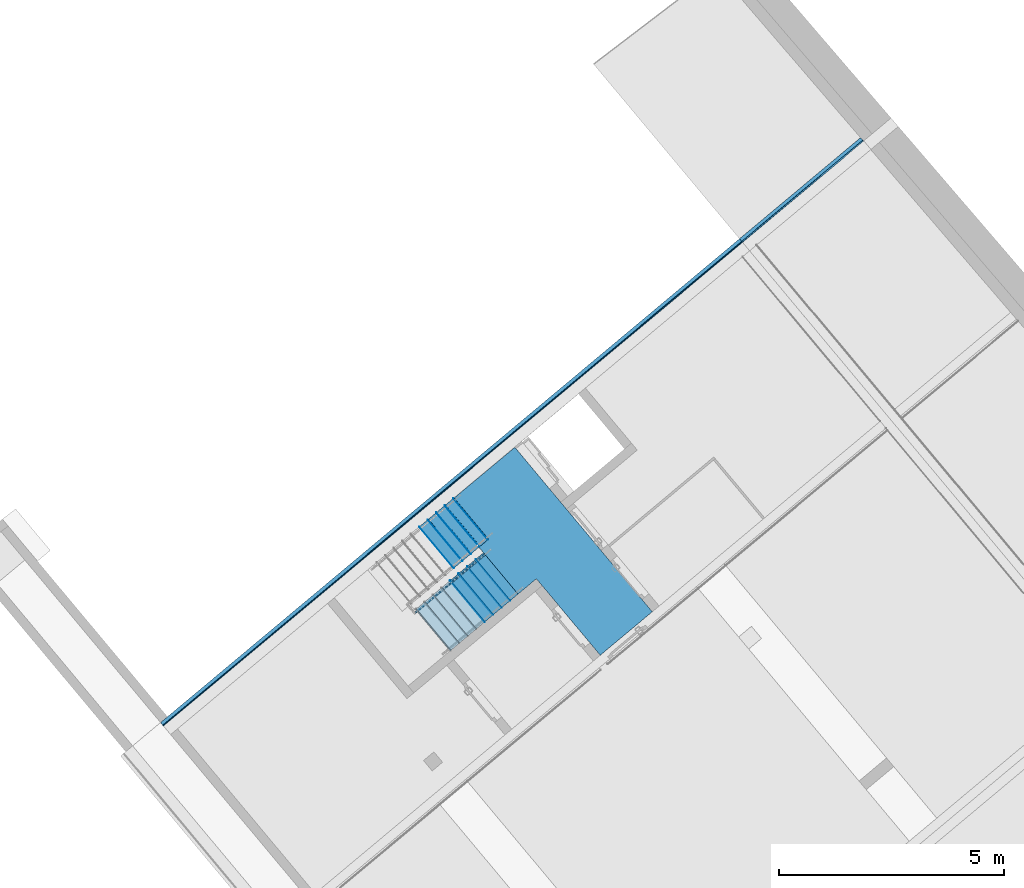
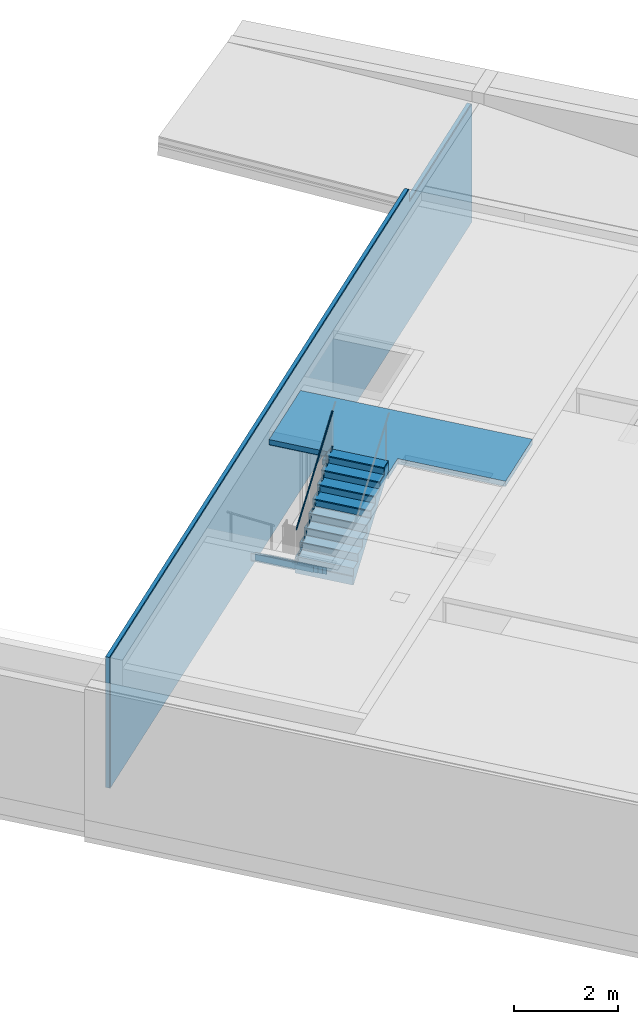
# One storey, part 10 of 17: 24 building element parts, 4 elements without a shape of their own.
"""IFC4 building model written with IfcOpenShell, lengths in metres."""

from ifc_helpers import new_model, entity, si_unit, converted_unit, derived_unit, direction, frame, origin_with_axes, place, context, subcontext, project, spatial, polygons, material, type_object, element, aggregate, save


model = new_model("IFC4")

# Units and contexts
model_context = context("Model", 3, precision=1e-05, world=origin_with_axes(), true_north=direction((0.0, 1.0)))
body_context = subcontext(model_context, "Body", "Model", "MODEL_VIEW")
ifc_project = project(units=[si_unit("LENGTHUNIT", "METRE"), si_unit("AREAUNIT", "SQUARE_METRE"), si_unit("VOLUMEUNIT", "CUBIC_METRE"), converted_unit("PLANEANGLEUNIT", "DEGREE", entity("IfcPlaneAngleMeasure", 0.0174532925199), si_unit("PLANEANGLEUNIT", "RADIAN"), dimensions=[0, 0, 0, 0, 0, 0, 0]), converted_unit("TIMEUNIT", "Year", entity("IfcTimeMeasure", 31556926.0), si_unit("TIMEUNIT", "SECOND"), dimensions=[0, 0, 1, 0, 0, 0, 0]), si_unit("MASSUNIT", "GRAM", prefix="KILO"), si_unit("THERMODYNAMICTEMPERATUREUNIT", "DEGREE_CELSIUS"), si_unit("LUMINOUSINTENSITYUNIT", "LUMEN"), si_unit("ENERGYUNIT", "JOULE", prefix="MEGA"), derived_unit("THERMALCONDUCTANCEUNIT", [(si_unit("POWERUNIT", "WATT"), 1), (si_unit("LENGTHUNIT", "METRE"), -1), (si_unit("THERMODYNAMICTEMPERATUREUNIT", "KELVIN"), -1)]), derived_unit("SPECIFICHEATCAPACITYUNIT", [(si_unit("ENERGYUNIT", "JOULE"), 1), (si_unit("MASSUNIT", "GRAM", prefix="KILO"), -1), (si_unit("THERMODYNAMICTEMPERATUREUNIT", "KELVIN"), -1)]), derived_unit("MASSDENSITYUNIT", [(si_unit("MASSUNIT", "GRAM", prefix="KILO"), 1), (si_unit("VOLUMEUNIT", "CUBIC_METRE"), -1)])], contexts=[model_context])

# Site, building, storey
site_placement = place(None, frame((-0.00153261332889, -0.00661245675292, 0.0), z_axis=(0.0, 0.0, 1.0), x_axis=(1.0, 0.0, 0.0)))
site = spatial("IfcSite", under=ifc_project, at=site_placement, Name="Site", CompositionType="ELEMENT")
building_placement = place(site_placement, origin_with_axes())
building = spatial("IfcBuilding", under=site, at=building_placement, Name="Building", CompositionType="ELEMENT")
storey_placement = place(building_placement, frame((0.0, 0.0, -3.3), z_axis=(0.0, 0.0, 1.0), x_axis=(1.0, 0.0, 0.0)))
storey = spatial("IfcBuildingStorey", under=building, at=storey_placement, Name="UG1", CompositionType="ELEMENT", Elevation=-3.3)

# Railing, building element parts
railing_type = type_object("IfcRailingType", Name="Geländerart", PredefinedType="NOTDEFINED")
railing_placement = place(storey_placement, frame((-0.202679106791, 23.9992163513, 0.0), z_axis=(0.0, 0.0, 1.0), x_axis=(1.0, 0.0, 0.0)))
railing = element("IfcRailing", 1, at=railing_placement, inside=storey, type_object=railing_type, Name="Geländer - 001", PredefinedType="NOTDEFINED")
ifc_material_1 = material(Name="BEKLEIDUNG")
building_element_part_1_placement = place(railing_placement, origin_with_axes())
building_element_part_1 = element("IfcBuildingElementPart", 2, at=building_element_part_1_placement, material=ifc_material_1, Name="BEKLEIDUNG", PredefinedType="NOTDEFINED", context=body_context, shape_type="Tessellation", body=[
    polygons([(-1.8322830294, -1.79508964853, 2.61672621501), (-1.83344295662, -1.79516516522, 2.61923212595), (-0.280788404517, -0.488809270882, 4.06989400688), (-1.83123457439, -1.79559152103, 2.61422030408), (-1.83032944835, -1.79665553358, 2.61179053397), (-1.82959515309, -1.7982493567, 2.60951073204), (-1.8290539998, -1.80032456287, 2.60745016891), (-1.82872243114, -1.80281809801, 2.60567145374), (-1.82861052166, -1.80565419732, 2.6042286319), (-1.82872167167, -1.80874668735, 2.6031655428), (-1.82905250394, -1.81200160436, 2.60251448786), (-1.8295929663, -1.81532004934, 2.60229524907), (-1.83032663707, -1.81860119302, 2.60251448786), (-1.83123122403, -1.82174533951, 2.6031655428), (-1.83227924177, -1.82465695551, 2.6042286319), (-1.8334388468, -1.82724757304, 2.60567145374), (-1.8346748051, -1.8294384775, 2.60745016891), (-1.83594956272, -1.83116309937, 2.60951073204), (-1.83722438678, -1.83236903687, 2.61179053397), (-1.8384605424, -1.83301964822, 2.61422030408), (-1.83962046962, -1.83309516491, 2.61672621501), (-1.84066892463, -1.83259329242, 2.61923212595), (-1.84157405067, -1.83152927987, 2.62166189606), (-1.84230834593, -1.82993545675, 2.62394169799), (-1.84284949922, -1.82786025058, 2.62600226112), (-1.84318106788, -1.82536671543, 2.62778097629), (-1.84329297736, -1.82253061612, 2.62922379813), (-1.84318182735, -1.81943812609, 2.63028688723), (-1.84285099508, -1.81618320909, 2.63093794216), (-1.84231053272, -1.81286476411, 2.63115718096), (-1.84157686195, -1.80958362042, 2.63093794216), (-1.84067227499, -1.80643947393, 2.63028688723), (-1.83962425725, -1.80352785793, 2.62922379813), (-1.83846465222, -1.8009372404, 2.62778097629), (-1.83722869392, -1.79874633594, 2.62600226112), (-1.8359539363, -1.79702171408, 2.62394169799), (-1.83467911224, -1.79581577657, 2.62166189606), (-0.281476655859, -0.49026625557, 4.071953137), (-0.279777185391, -0.48766732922, 4.06777035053), (-0.278473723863, -0.486875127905, 4.06564669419), (-0.276917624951, -0.486456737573, 4.06358756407), (-0.275156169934, -0.486424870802, 4.0616555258), (-0.273242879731, -0.486780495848, 4.05990928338), (-0.271235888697, -0.487512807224, 4.05840189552), (-0.269196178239, -0.488599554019, 4.05717916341), (-0.267185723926, -0.490007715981, 4.05627823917), (-0.265265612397, -0.491694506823, 4.05572649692), (-0.263494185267, -0.493608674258, 4.05554070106), (-0.261925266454, -0.495692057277, 4.05572649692), (-0.260606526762, -0.497881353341, 4.05627823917), (-0.25957803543, -0.500110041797, 4.05717916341), (-0.258871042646, -0.502310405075, 4.05840189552), (-0.258507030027, -0.504415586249, 4.05990928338), (-0.258497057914, -0.506361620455, 4.0616555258), (-0.258841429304, -0.508089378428, 4.06358756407), (-0.259529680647, -0.509546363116, 4.06564669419), (-0.260540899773, -0.510688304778, 4.06777035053), (-0.261844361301, -0.511480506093, 4.06989400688), (-0.263400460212, -0.511898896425, 4.071953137), (-0.265161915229, -0.511930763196, 4.07388517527), (-0.267075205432, -0.51157513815, 4.07563141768), (-0.269082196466, -0.510842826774, 4.07713880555), (-0.271121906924, -0.509756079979, 4.07836153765), (-0.273132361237, -0.508347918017, 4.07926246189), (-0.275052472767, -0.506661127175, 4.07981420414), (-0.276823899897, -0.50474695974, 4.08), (-0.278392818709, -0.502663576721, 4.07981420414), (-0.279711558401, -0.500474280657, 4.07926246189), (-0.280740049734, -0.498245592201, 4.07836153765), (-0.281447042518, -0.496045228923, 4.07713880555), (-0.281811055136, -0.493940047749, 4.07563141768), (-0.281821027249, -0.491994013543, 4.07388517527)], [[[1, 2, 3]], [[1, 4, 5, 6, 7, 8, 9, 10, 11, 12, 13, 14, 15, 16, 17, 18, 19, 20, 21, 22, 23, 24, 25, 26, 27, 28, 29, 30, 31, 32, 33, 34, 35, 36, 37, 2]], [[2, 38, 3]], [[1, 3, 39]], [[4, 1, 39]], [[5, 4, 40]], [[6, 5, 41]], [[7, 6, 42]], [[8, 7, 43]], [[9, 8, 44]], [[10, 9, 45]], [[11, 10, 46]], [[12, 11, 47]], [[13, 12, 48]], [[14, 13, 49]], [[15, 14, 50]], [[16, 15, 51]], [[17, 16, 52]], [[18, 17, 53]], [[19, 18, 54]], [[20, 19, 55]], [[21, 20, 56]], [[22, 21, 57]], [[23, 22, 58]], [[24, 23, 59]], [[25, 24, 60]], [[26, 25, 61]], [[27, 26, 62]], [[28, 27, 63]], [[29, 28, 64]], [[30, 29, 65]], [[31, 30, 66]], [[32, 31, 67]], [[33, 32, 68]], [[34, 33, 69]], [[35, 34, 70]], [[36, 35, 71]], [[37, 36, 72]], [[2, 37, 38]], [[39, 3, 38, 72, 71, 70, 69, 68, 67, 66, 65, 64, 63, 62, 61, 60, 59, 58, 57, 56, 55, 54, 53, 52, 51, 50, 49, 48, 47, 46, 45, 44, 43, 42, 41, 40]], [[4, 39, 40]], [[5, 40, 41]], [[6, 41, 42]], [[7, 42, 43]], [[8, 43, 44]], [[9, 44, 45]], [[10, 45, 46]], [[11, 46, 47]], [[12, 47, 48]], [[13, 48, 49]], [[14, 49, 50]], [[15, 50, 51]], [[16, 51, 52]], [[17, 52, 53]], [[18, 53, 54]], [[19, 54, 55]], [[20, 55, 56]], [[21, 56, 57]], [[22, 57, 58]], [[23, 58, 59]], [[24, 59, 60]], [[25, 60, 61]], [[26, 61, 62]], [[27, 62, 63]], [[28, 63, 64]], [[29, 64, 65]], [[30, 65, 66]], [[31, 66, 67]], [[32, 67, 68]], [[33, 68, 69]], [[34, 69, 70]], [[35, 70, 71]], [[36, 71, 72]], [[37, 72, 38]]], closed=True),
])
building_element_part_2_placement = place(railing_placement, origin_with_axes())
building_element_part_2 = element("IfcBuildingElementPart", 3, at=building_element_part_2_placement, material=ifc_material_1, Name="BEKLEIDUNG", PredefinedType="NOTDEFINED", context=body_context, shape_type="Tessellation", body=[
    polygons([(-1.85066678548, -1.82767736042, 1.81318298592), (-1.84006881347, -1.82972343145, 1.78913137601), (-0.263254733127, -0.509698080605, 3.23980862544), (-1.84455225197, -1.79600609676, 1.81318298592), (-1.83395427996, -1.79805216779, 1.78913137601), (-0.279284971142, -0.490513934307, 3.23980862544), (-0.274362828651, -0.518979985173, 3.26019137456), (-0.290393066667, -0.499795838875, 3.26019137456)], [[[1, 2, 3]], [[1, 4, 5, 2]], [[2, 6, 3]], [[1, 3, 7]], [[4, 1, 7]], [[5, 4, 8]], [[2, 5, 6]], [[7, 3, 6, 8]], [[4, 7, 8]], [[5, 8, 6]]], closed=True),
])
aggregate(railing, [building_element_part_1, building_element_part_2])

# Stair, building element parts
stair_type = type_object("IfcStairType", Name="Treppentyp", PredefinedType="NOTDEFINED")
stair_placement = place(storey_placement, frame((-0.972083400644, 24.9200947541, 0.0), z_axis=(0.0, 0.0, 1.0), x_axis=(1.0, 0.0, 0.0)))
stair = element("IfcStair", 4, at=stair_placement, inside=storey, type_object=stair_type, Name="Treppe - 001", PredefinedType="NOTDEFINED")
ifc_material_2 = material(Name="Stahlbeton Decke")
building_element_part_3_placement = place(stair_placement, origin_with_axes())
building_element_part_3 = element("IfcBuildingElementPart", 5, at=building_element_part_3_placement, material=ifc_material_2, Name="Stahlbeton Decke", PredefinedType="NOTDEFINED", context=body_context, shape_type="Tessellation", body=[
    polygons([(1.10378229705, -2.4135394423, 2.81014065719), (1.16687682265, -2.36081777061, 2.86902954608), (1.22997134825, -2.30809609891, 2.92791843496), (1.22997134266, -2.30809609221, 3.155), (1.05994864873, -2.45016674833, 3.155), (1.05994864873, -2.45016674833, 2.97833333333), (0.870665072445, -2.60833176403, 2.97833333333), (0.870665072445, -2.60833176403, 2.80166666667), (0.681381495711, -2.7664967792, 2.80166666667), (0.681381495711, -2.7664967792, 2.625), (0.492097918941, -2.92466179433, 2.625), (0.492097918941, -2.92466179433, 2.44833333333), (0.302814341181, -3.08282680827, 2.44833333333), (0.302814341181, -3.08282680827, 2.27166666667), (0.113530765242, -3.24099182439, 2.27166666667), (0.113530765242, -3.24099182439, 2.095), (-0.0757528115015, -3.39915683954, 2.095), (-0.0757528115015, -3.39915683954, 1.91833333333), (-0.265036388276, -3.55732185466, 1.91833333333), (-0.265036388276, -3.55732185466, 1.74166666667), (-0.284297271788, -3.57341621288, 1.74166666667), (-0.284297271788, -3.57341621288, 1.54166666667), (-0.255281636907, -3.54917080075, 1.54166666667), (-0.221202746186, -3.52069454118, 1.57347399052), (-0.158108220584, -3.46797286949, 1.63236287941), (-0.0950136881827, -3.41525120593, 1.6912517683), (-0.0319191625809, -3.36252953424, 1.75014065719), (0.0311753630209, -3.30980786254, 1.80902954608), (0.0942698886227, -3.25708619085, 1.86791843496), (0.157364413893, -3.20436451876, 1.92680732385), (0.220458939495, -3.15164284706, 1.98569621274), (0.283553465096, -3.09892117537, 2.04458510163), (0.346647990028, -3.04619950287, 2.10347399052), (0.40974251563, -2.99347783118, 2.16236287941), (0.472837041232, -2.94075615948, 2.2212517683), (0.535931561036, -2.88803448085, 2.28014065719), (0.599026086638, -2.83531280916, 2.33902954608), (0.66212061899, -2.78259114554, 2.39791843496), (0.725215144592, -2.72986947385, 2.45680732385), (0.788309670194, -2.67714780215, 2.51569621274), (0.851404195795, -2.62442613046, 2.57458510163), (0.914498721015, -2.57170445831, 2.63347399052), (0.977593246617, -2.51898278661, 2.69236287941), (1.04068777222, -2.46626111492, 2.7512517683), (0.397425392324, -1.43997874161, 2.86902954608), (0.334330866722, -1.49270041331, 2.81014065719), (0.460519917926, -1.38725706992, 2.92791843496), (0.460519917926, -1.38725706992, 3.155), (0.290497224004, -1.52932772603, 3.155), (0.290497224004, -1.52932772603, 2.97833333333), (0.101213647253, -1.68749274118, 2.97833333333), (0.101213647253, -1.68749274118, 2.80166666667), (-0.0880699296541, -1.84565775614, 2.80166666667), (-0.0880699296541, -1.84565775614, 2.625), (-0.27735350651, -2.00382277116, 2.625), (-0.27735350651, -2.00382277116, 2.44833333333), (-0.46663708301, -2.16198778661, 2.44833333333), (-0.46663708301, -2.16198778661, 2.27166666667), (-0.655920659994, -2.32015280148, 2.27166666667), (-0.655920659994, -2.32015280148, 2.095), (-0.845204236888, -2.47831781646, 2.095), (-0.845204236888, -2.47831781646, 1.91833333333), (-1.03448781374, -2.63648283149, 1.91833333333), (-1.03448781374, -2.63648283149, 1.74166666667), (-1.05374869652, -2.65257719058, 1.74166666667), (-1.05374870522, -2.65257718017, 1.54166666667), (-1.02473307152, -2.62833176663, 1.54166666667), (-0.990654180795, -2.59985550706, 1.57347399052), (-0.927559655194, -2.54713383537, 1.63236287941), (-0.864465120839, -2.49441217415, 1.6912517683), (-0.801370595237, -2.44169050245, 1.75014065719), (-0.738276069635, -2.38896883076, 1.80902954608), (-0.675181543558, -2.33624715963, 1.86791843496), (-0.612087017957, -2.28352548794, 1.92680732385), (-0.548992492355, -2.23080381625, 1.98569621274), (-0.4858979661, -2.17808214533, 2.04458510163), (-0.422803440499, -2.12536047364, 2.10347399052), (-0.359708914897, -2.07263880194, 2.16236287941), (-0.296614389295, -2.01991713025, 2.2212517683), (-0.233519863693, -1.96719545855, 2.28014065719), (-0.170425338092, -1.91447378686, 2.33902954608), (-0.10733081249, -1.86175211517, 2.39791843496), (-0.0442362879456, -1.80903044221, 2.45680732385), (0.0188582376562, -1.75630877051, 2.51569621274), (0.0819527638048, -1.70358709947, 2.57458510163), (0.145047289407, -1.65086542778, 2.63347399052), (0.208141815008, -1.59814375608, 2.69236287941), (0.271236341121, -1.545422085, 2.7512517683)], [[[1, 2, 3, 4, 5, 6, 7, 8, 9, 10, 11, 12, 13, 14, 15, 16, 17, 18, 19, 20, 21, 22, 23, 24, 25, 26, 27, 28, 29, 30, 31, 32, 33, 34, 35, 36, 37, 38, 39, 40, 41, 42, 43, 44]], [[45, 2, 1, 46]], [[47, 3, 2, 45]], [[4, 3, 47, 48]], [[4, 48, 49, 5]], [[49, 50, 6, 5]], [[51, 7, 6, 50]], [[51, 52, 8, 7]], [[53, 9, 8, 52]], [[53, 54, 10, 9]], [[55, 11, 10, 54]], [[55, 56, 12, 11]], [[57, 13, 12, 56]], [[57, 58, 14, 13]], [[59, 15, 14, 58]], [[59, 60, 16, 15]], [[61, 17, 16, 60]], [[61, 62, 18, 17]], [[63, 19, 18, 62]], [[63, 64, 20, 19]], [[64, 65, 21, 20]], [[66, 22, 21, 65]], [[23, 22, 66, 67]], [[68, 24, 23, 67]], [[69, 25, 24, 68]], [[70, 26, 25, 69]], [[71, 27, 26, 70]], [[72, 28, 27, 71]], [[73, 29, 28, 72]], [[74, 30, 29, 73]], [[75, 31, 30, 74]], [[76, 32, 31, 75]], [[77, 33, 32, 76]], [[78, 34, 33, 77]], [[79, 35, 34, 78]], [[80, 36, 35, 79]], [[81, 37, 36, 80]], [[82, 38, 37, 81]], [[83, 39, 38, 82]], [[84, 40, 39, 83]], [[85, 41, 40, 84]], [[86, 42, 41, 85]], [[87, 43, 42, 86]], [[88, 44, 43, 87]], [[46, 1, 44, 88]], [[69, 68, 67, 66, 65, 64, 63, 62, 61, 60, 59, 58, 57, 56, 55, 54, 53, 52, 51, 50, 49, 48, 47, 45, 46, 88, 87, 86, 85, 84, 83, 82, 81, 80, 79, 78, 77, 76, 75, 74, 73, 72, 71, 70]]], closed=True),
])
building_element_part_4_placement = place(stair_placement, origin_with_axes())
building_element_part_4 = element("IfcBuildingElementPart", 6, at=building_element_part_4_placement, material=ifc_material_1, Name="BEKLEIDUNG", PredefinedType="NOTDEFINED", context=body_context, shape_type="Tessellation", body=[
    polygons([(-0.207379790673, -0.173268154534, 0.151666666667), (-0.215053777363, -0.179679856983, 0.151666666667), (0.55435051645, -1.10055825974, 0.151666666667), (0.56202450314, -1.09414655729, 0.151666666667), (-0.207379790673, -0.173268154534, 0.0), (-0.215053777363, -0.179679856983, 0.0), (0.55435051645, -1.10055825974, 0.0), (0.56202450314, -1.09414655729, 0.0)], [[[1, 2, 3, 4]], [[1, 5, 6, 2]], [[2, 6, 7, 3]], [[4, 3, 7, 8]], [[5, 1, 4, 8]], [[6, 5, 8, 7]]], closed=True),
])
building_element_part_5_placement = place(stair_placement, origin_with_axes())
building_element_part_5 = element("IfcBuildingElementPart", 7, at=building_element_part_5_placement, material=ifc_material_1, Name="BEKLEIDUNG", PredefinedType="NOTDEFINED", context=body_context, shape_type="Tessellation", body=[
    polygons([(-0.396671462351, -0.331423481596, 0.328333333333), (-0.40434544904, -0.337835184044, 0.328333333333), (0.365058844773, -1.2587135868, 0.328333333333), (0.372732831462, -1.25230188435, 0.328333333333), (-0.396671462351, -0.331423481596, 0.176666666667), (-0.40434544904, -0.337835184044, 0.176666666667), (0.365058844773, -1.2587135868, 0.176666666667), (0.372732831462, -1.25230188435, 0.176666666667)], [[[1, 2, 3, 4]], [[1, 5, 6, 2]], [[2, 6, 7, 3]], [[4, 3, 7, 8]], [[5, 1, 4, 8]], [[6, 5, 8, 7]]], closed=True),
])
building_element_part_6_placement = place(stair_placement, origin_with_axes())
building_element_part_6 = element("IfcBuildingElementPart", 8, at=building_element_part_6_placement, material=ifc_material_1, Name="BEKLEIDUNG", PredefinedType="NOTDEFINED", context=body_context, shape_type="Tessellation", body=[
    polygons([(-0.585963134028, -0.489578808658, 0.505), (-0.593637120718, -0.495990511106, 0.505), (0.175767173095, -1.41686891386, 0.505), (0.183441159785, -1.41045721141, 0.505), (-0.585963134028, -0.489578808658, 0.353333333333), (-0.593637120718, -0.495990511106, 0.353333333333), (0.175767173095, -1.41686891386, 0.353333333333), (0.183441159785, -1.41045721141, 0.353333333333)], [[[1, 2, 3, 4]], [[1, 5, 6, 2]], [[2, 6, 7, 3]], [[4, 3, 7, 8]], [[5, 1, 4, 8]], [[6, 5, 8, 7]]], closed=True),
])
building_element_part_7_placement = place(stair_placement, origin_with_axes())
building_element_part_7 = element("IfcBuildingElementPart", 9, at=building_element_part_7_placement, material=ifc_material_1, Name="BEKLEIDUNG", PredefinedType="NOTDEFINED", context=body_context, shape_type="Tessellation", body=[
    polygons([(-0.775254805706, -0.647734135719, 0.681666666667), (-0.782928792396, -0.654145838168, 0.681666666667), (-0.0135244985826, -1.57502424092, 0.681666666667), (-0.005850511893, -1.56861253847, 0.681666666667), (-0.775254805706, -0.647734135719, 0.53), (-0.782928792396, -0.654145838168, 0.53), (-0.0135244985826, -1.57502424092, 0.53), (-0.005850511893, -1.56861253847, 0.53)], [[[1, 2, 3, 4]], [[1, 5, 6, 2]], [[2, 6, 7, 3]], [[4, 3, 7, 8]], [[5, 1, 4, 8]], [[6, 5, 8, 7]]], closed=True),
])
building_element_part_8_placement = place(stair_placement, origin_with_axes())
building_element_part_8 = element("IfcBuildingElementPart", 10, at=building_element_part_8_placement, material=ifc_material_1, Name="BEKLEIDUNG", PredefinedType="NOTDEFINED", context=body_context, shape_type="Tessellation", body=[
    polygons([(-0.964546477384, -0.805889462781, 0.858333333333), (-0.972220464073, -0.812301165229, 0.858333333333), (-0.20281617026, -1.73317956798, 0.858333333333), (-0.195142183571, -1.72676786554, 0.858333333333), (-0.964546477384, -0.805889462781, 0.706666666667), (-0.972220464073, -0.812301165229, 0.706666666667), (-0.20281617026, -1.73317956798, 0.706666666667), (-0.195142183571, -1.72676786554, 0.706666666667)], [[[1, 2, 3, 4]], [[1, 5, 6, 2]], [[2, 6, 7, 3]], [[4, 3, 7, 8]], [[5, 1, 4, 8]], [[6, 5, 8, 7]]], closed=True),
])
building_element_part_9_placement = place(stair_placement, origin_with_axes())
building_element_part_9 = element("IfcBuildingElementPart", 11, at=building_element_part_9_placement, material=ifc_material_1, Name="BEKLEIDUNG", PredefinedType="NOTDEFINED", context=body_context, shape_type="Tessellation", body=[
    polygons([(0.484347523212, -2.93113800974, 2.625), (0.492021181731, -2.92472591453, 2.625), (-0.277430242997, -2.00388689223, 2.625), (-0.285103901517, -2.01029898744, 2.625), (0.484347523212, -2.93113800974, 2.47333333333), (0.492021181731, -2.92472591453, 2.47333333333), (-0.277430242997, -2.00388689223, 2.47333333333), (-0.285103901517, -2.01029898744, 2.47333333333)], [[[1, 2, 3, 4]], [[1, 5, 6, 2]], [[2, 6, 7, 3]], [[4, 3, 7, 8]], [[5, 1, 4, 8]], [[6, 5, 8, 7]]], closed=True),
])
building_element_part_10_placement = place(stair_placement, origin_with_axes())
building_element_part_10 = element("IfcBuildingElementPart", 12, at=building_element_part_10_placement, material=ifc_material_1, Name="BEKLEIDUNG", PredefinedType="NOTDEFINED", context=body_context, shape_type="Tessellation", body=[
    polygons([(0.673631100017, -2.77297299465, 2.80166666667), (0.681304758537, -2.76656089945, 2.80166666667), (-0.0881466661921, -1.84572187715, 2.80166666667), (-0.0958203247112, -1.85213397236, 2.80166666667), (0.673631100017, -2.77297299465, 2.65), (0.681304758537, -2.76656089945, 2.65), (-0.0881466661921, -1.84572187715, 2.65), (-0.0958203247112, -1.85213397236, 2.65)], [[[1, 2, 3, 4]], [[1, 5, 6, 2]], [[2, 6, 7, 3]], [[4, 3, 7, 8]], [[5, 1, 4, 8]], [[6, 5, 8, 7]]], closed=True),
])
building_element_part_11_placement = place(stair_placement, origin_with_axes())
building_element_part_11 = element("IfcBuildingElementPart", 13, at=building_element_part_11_placement, material=ifc_material_1, Name="BEKLEIDUNG", PredefinedType="NOTDEFINED", context=body_context, shape_type="Tessellation", body=[
    polygons([(0.862914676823, -2.61480797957, 2.97833333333), (0.870588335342, -2.60839588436, 2.97833333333), (0.101136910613, -1.68755686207, 2.97833333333), (0.093463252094, -1.69396895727, 2.97833333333), (0.862914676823, -2.61480797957, 2.82666666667), (0.870588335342, -2.60839588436, 2.82666666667), (0.101136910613, -1.68755686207, 2.82666666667), (0.093463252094, -1.69396895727, 2.82666666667)], [[[1, 2, 3, 4]], [[1, 5, 6, 2]], [[2, 6, 7, 3]], [[4, 3, 7, 8]], [[5, 1, 4, 8]], [[6, 5, 8, 7]]], closed=True),
])
building_element_part_12_placement = place(stair_placement, origin_with_axes())
building_element_part_12 = element("IfcBuildingElementPart", 14, at=building_element_part_12_placement, material=ifc_material_1, Name="BEKLEIDUNG", PredefinedType="NOTDEFINED", context=body_context, shape_type="Tessellation", body=[
    polygons([(1.05219825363, -2.45664296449, 3.155), (1.05987191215, -2.45023086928, 3.155), (0.290420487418, -1.52939184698, 3.155), (0.282746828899, -1.53580394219, 3.155), (1.05219825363, -2.45664296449, 3.00333333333), (1.05987191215, -2.45023086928, 3.00333333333), (0.290420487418, -1.52939184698, 3.00333333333), (0.282746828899, -1.53580394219, 3.00333333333)], [[[1, 2, 3, 4]], [[1, 5, 6, 2]], [[2, 6, 7, 3]], [[4, 3, 7, 8]], [[5, 1, 4, 8]], [[6, 5, 8, 7]]], closed=True),
])
building_element_part_13_placement = place(stair_placement, origin_with_axes())
building_element_part_13 = element("IfcBuildingElementPart", 15, at=building_element_part_13_placement, material=ifc_material_1, Name="BEKLEIDUNG", PredefinedType="NOTDEFINED", context=body_context, shape_type="Tessellation", body=[
    polygons([(0.573535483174, -1.08452900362, 0.151666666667), (-0.195868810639, -0.163650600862, 0.151666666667), (-0.195868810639, -0.163650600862, 0.176666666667), (0.573535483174, -1.08452900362, 0.176666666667), (0.365058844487, -1.25871358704, 0.151666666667), (-0.404345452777, -0.337835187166, 0.151666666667), (-0.404345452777, -0.337835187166, 0.176666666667), (0.365058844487, -1.25871358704, 0.176666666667)], [[[1, 2, 3, 4]], [[1, 5, 6, 2]], [[2, 6, 7, 3]], [[4, 3, 7, 8]], [[5, 1, 4, 8]], [[6, 5, 8, 7]]], closed=True),
])
building_element_part_14_placement = place(stair_placement, origin_with_axes())
building_element_part_14 = element("IfcBuildingElementPart", 16, at=building_element_part_14_placement, material=ifc_material_1, Name="BEKLEIDUNG", PredefinedType="NOTDEFINED", context=body_context, shape_type="Tessellation", body=[
    polygons([(0.384243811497, -1.24268433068, 0.328333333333), (-0.385160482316, -0.321805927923, 0.328333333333), (-0.385160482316, -0.321805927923, 0.353333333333), (0.384243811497, -1.24268433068, 0.353333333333), (0.17576717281, -1.4168689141, 0.328333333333), (-0.593637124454, -0.495990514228, 0.328333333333), (-0.593637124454, -0.495990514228, 0.353333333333), (0.17576717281, -1.4168689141, 0.353333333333)], [[[1, 2, 3, 4]], [[1, 5, 6, 2]], [[2, 6, 7, 3]], [[4, 3, 7, 8]], [[5, 1, 4, 8]], [[6, 5, 8, 7]]], closed=True),
])
building_element_part_15_placement = place(stair_placement, origin_with_axes())
building_element_part_15 = element("IfcBuildingElementPart", 17, at=building_element_part_15_placement, material=ifc_material_1, Name="BEKLEIDUNG", PredefinedType="NOTDEFINED", context=body_context, shape_type="Tessellation", body=[
    polygons([(0.194952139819, -1.40083965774, 0.505), (-0.574452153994, -0.479961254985, 0.505), (-0.574452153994, -0.479961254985, 0.53), (0.194952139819, -1.40083965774, 0.53), (-0.0135244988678, -1.57502424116, 0.505), (-0.782928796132, -0.654145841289, 0.505), (-0.782928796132, -0.654145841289, 0.53), (-0.0135244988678, -1.57502424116, 0.53)], [[[1, 2, 3, 4]], [[1, 5, 6, 2]], [[2, 6, 7, 3]], [[4, 3, 7, 8]], [[5, 1, 4, 8]], [[6, 5, 8, 7]]], closed=True),
])
building_element_part_16_placement = place(stair_placement, origin_with_axes())
building_element_part_16 = element("IfcBuildingElementPart", 18, at=building_element_part_16_placement, material=ifc_material_1, Name="BEKLEIDUNG", PredefinedType="NOTDEFINED", context=body_context, shape_type="Tessellation", body=[
    polygons([(0.00566046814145, -1.5589949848, 0.681666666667), (-0.763743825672, -0.638116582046, 0.681666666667), (-0.763743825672, -0.638116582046, 0.706666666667), (0.00566046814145, -1.5589949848, 0.706666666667), (-0.202816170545, -1.73317956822, 0.681666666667), (-0.97222046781, -0.812301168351, 0.681666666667), (-0.97222046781, -0.812301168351, 0.706666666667), (-0.202816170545, -1.73317956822, 0.706666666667)], [[[1, 2, 3, 4]], [[1, 5, 6, 2]], [[2, 6, 7, 3]], [[4, 3, 7, 8]], [[5, 1, 4, 8]], [[6, 5, 8, 7]]], closed=True),
])
building_element_part_17_placement = place(stair_placement, origin_with_axes())
building_element_part_17 = element("IfcBuildingElementPart", 19, at=building_element_part_17_placement, material=ifc_material_1, Name="BEKLEIDUNG", PredefinedType="NOTDEFINED", context=body_context, shape_type="Tessellation", body=[
    polygons([(-0.296614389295, -2.01991713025, 2.625), (0.472837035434, -2.94075615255, 2.625), (0.472837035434, -2.94075615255, 2.65), (-0.296614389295, -2.01991713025, 2.65), (-0.088146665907, -1.84572187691, 2.625), (0.681304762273, -2.76656089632, 2.625), (0.681304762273, -2.76656089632, 2.65), (-0.088146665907, -1.84572187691, 2.65)], [[[1, 2, 3, 4]], [[1, 5, 6, 2]], [[2, 6, 7, 3]], [[4, 3, 7, 8]], [[5, 1, 4, 8]], [[6, 5, 8, 7]]], closed=True),
])
building_element_part_18_placement = place(stair_placement, origin_with_axes())
building_element_part_18 = element("IfcBuildingElementPart", 20, at=building_element_part_18_placement, material=ifc_material_1, Name="BEKLEIDUNG", PredefinedType="NOTDEFINED", context=body_context, shape_type="Tessellation", body=[
    polygons([(-0.10733081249, -1.86175211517, 2.80166666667), (0.662120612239, -2.78259113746, 2.80166666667), (0.662120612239, -2.78259113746, 2.82666666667), (-0.10733081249, -1.86175211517, 2.82666666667), (0.101136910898, -1.68755686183, 2.80166666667), (0.870588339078, -2.60839588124, 2.80166666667), (0.870588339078, -2.60839588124, 2.82666666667), (0.101136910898, -1.68755686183, 2.82666666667)], [[[1, 2, 3, 4]], [[1, 5, 6, 2]], [[2, 6, 7, 3]], [[4, 3, 7, 8]], [[5, 1, 4, 8]], [[6, 5, 8, 7]]], closed=True),
])
building_element_part_19_placement = place(stair_placement, origin_with_axes())
building_element_part_19 = element("IfcBuildingElementPart", 21, at=building_element_part_19_placement, material=ifc_material_1, Name="BEKLEIDUNG", PredefinedType="NOTDEFINED", context=body_context, shape_type="Tessellation", body=[
    polygons([(0.0819527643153, -1.70358710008, 2.97833333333), (0.851404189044, -2.62442612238, 2.97833333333), (0.851404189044, -2.62442612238, 3.00333333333), (0.0819527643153, -1.70358710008, 3.00333333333), (0.290420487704, -1.52939184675, 2.97833333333), (1.05987191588, -2.45023086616, 2.97833333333), (1.05987191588, -2.45023086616, 3.00333333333), (0.290420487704, -1.52939184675, 3.00333333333)], [[[1, 2, 3, 4]], [[1, 5, 6, 2]], [[2, 6, 7, 3]], [[4, 3, 7, 8]], [[5, 1, 4, 8]], [[6, 5, 8, 7]]], closed=True),
])
building_element_part_20_placement = place(stair_placement, origin_with_axes())
building_element_part_20 = element("IfcBuildingElementPart", 22, at=building_element_part_20_placement, material=ifc_material_1, Name="BEKLEIDUNG", PredefinedType="NOTDEFINED", context=body_context, shape_type="Tessellation", body=[
    polygons([(0.271236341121, -1.545422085, 3.155), (1.04068776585, -2.4662611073, 3.155), (1.04068776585, -2.4662611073, 3.18), (0.271236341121, -1.545422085, 3.18), (0.460519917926, -1.38725706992, 3.155), (1.22997134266, -2.30809609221, 3.155), (1.22997134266, -2.30809609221, 3.18), (0.460519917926, -1.38725706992, 3.18)], [[[1, 2, 3, 4]], [[1, 5, 6, 2]], [[2, 6, 7, 3]], [[4, 3, 7, 8]], [[5, 1, 4, 8]], [[6, 5, 8, 7]]], closed=True),
])
aggregate(stair, [building_element_part_3, building_element_part_4, building_element_part_5, building_element_part_6, building_element_part_7, building_element_part_8, building_element_part_9, building_element_part_10, building_element_part_11, building_element_part_12, building_element_part_13, building_element_part_14, building_element_part_15, building_element_part_16, building_element_part_17, building_element_part_18, building_element_part_19, building_element_part_20])

# Wall, building element parts
wall_type = type_object("IfcWallType", Name="Keller-AW 350", PredefinedType="NOTDEFINED")
wall_placement = place(storey_placement, frame((8.07301241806, 32.933460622, 0.0), z_axis=(0.0, 0.0, 1.0), x_axis=(-0.767366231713, -0.641209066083, 0.0)))
wall = element("IfcWall", 23, at=wall_placement, inside=storey, type_object=wall_type, Name="Wand-002", PredefinedType="NOTDEFINED")
ifc_material_3 = material(Name="Sperrschicht")
building_element_part_21_placement = place(wall_placement, origin_with_axes())
building_element_part_21 = element("IfcBuildingElementPart", 24, at=building_element_part_21_placement, material=ifc_material_3, Name="Sperrschicht", PredefinedType="NOTDEFINED", context=body_context, shape_type="Tessellation", body=[
    polygons([(0.248920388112, 0.08, 2.78662443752), (0.248644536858, 0.1, 2.78562475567), (0.248644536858, 0.1, 0.0), (0.248920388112, 0.08, 0.0), (3.75997034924, 0.1, 2.78301005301), (3.75997147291, 0.08, 2.78400993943), (3.75997034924, 0.1, 3.08), (20.5549543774, 0.1, 3.08), (20.5549543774, 0.1, 0.0), (20.5549543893, 0.08, 0.0), (20.5549543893, 0.08, 3.08), (3.75997147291, 0.08, 3.08)], [[[1, 2, 3, 4]], [[5, 2, 1, 6]], [[5, 7, 8, 9, 3, 2]], [[3, 9, 10, 4]], [[6, 1, 4, 10, 11, 12]], [[12, 7, 5, 6]], [[7, 12, 11, 8]], [[8, 11, 10, 9]]], closed=True),
])
ifc_material_4 = material(Name="XPS KG")
building_element_part_22_placement = place(wall_placement, origin_with_axes())
building_element_part_22 = element("IfcBuildingElementPart", 25, at=building_element_part_22_placement, material=ifc_material_4, Name="XPS KG", PredefinedType="NOTDEFINED", context=body_context, shape_type="Tessellation", body=[
    polygons([(0.250023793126, 0.0, 2.79062316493), (0.248920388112, 0.08, 2.78662443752), (0.248920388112, 0.08, 0.0), (0.250023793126, 0.0, 0.0), (3.75997147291, 0.08, 2.78400993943), (3.75997596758, 0.0, 2.78800948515), (3.75997147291, 0.08, 3.08), (20.5549543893, 0.08, 3.08), (20.5549543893, 0.08, 0.0), (20.5549544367, 0.0, 0.0), (20.5549544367, 0.0, 3.08), (3.75997596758, 0.0, 3.08)], [[[1, 2, 3, 4]], [[5, 2, 1, 6]], [[5, 7, 8, 9, 3, 2]], [[3, 9, 10, 4]], [[6, 1, 4, 10, 11, 12]], [[12, 7, 5, 6]], [[7, 12, 11, 8]], [[8, 11, 10, 9]]], closed=True),
])
aggregate(wall, [building_element_part_21, building_element_part_22])

# Covering, building element parts
covering_type = type_object("IfcCoveringType", Name="Vorsatzschale Garage 130", PredefinedType="NOTDEFINED")
covering_placement = place(storey_placement, frame((3.24624745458, 22.2189221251, 2.88), z_axis=(0.0, 0.0, 1.0), x_axis=(1.0, 0.0, 0.0)))
covering = element("IfcCovering", 26, at=covering_placement, inside=storey, type_object=covering_type, Name="Decke-005", PredefinedType="NOTDEFINED")
ifc_material_5 = material(Name="Holzwolledämmplatte")
building_element_part_23_placement = place(covering_placement, origin_with_axes())
building_element_part_23 = element("IfcBuildingElementPart", 27, at=building_element_part_23_placement, material=ifc_material_5, Name="Holzwolledämmplatte", PredefinedType="NOTDEFINED", context=body_context, shape_type="Tessellation", body=[
    polygons([(0.0, 0.0, -0.12), (-3.05956379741, 3.66153767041, -0.12), (-3.05956379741, 3.66153767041, 0.0), (0.0, 0.0, 0.0), (-1.15876961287, -0.968265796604, -0.12), (-2.58084285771, 0.733596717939, -0.12), (-2.98835951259, 0.393076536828, -0.12), (-3.86030260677, 1.4365849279, -0.12), (-3.64479537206, 1.61664362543, -0.12), (-4.41133641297, 2.53409509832, -0.12), (-4.41133641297, 2.53409509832, 0.0), (-1.15876961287, -0.968265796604, 0.0), (-3.64479537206, 1.61664362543, 0.0), (-3.86030260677, 1.4365849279, 0.0), (-2.98835951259, 0.393076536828, 0.0), (-2.58084285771, 0.733596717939, 0.0)], [[[1, 2, 3, 4]], [[2, 1, 5, 6, 7, 8, 9, 10]], [[2, 10, 11, 3]], [[12, 4, 3, 11, 13, 14, 15, 16]], [[5, 1, 4, 12]], [[6, 5, 12, 16]], [[7, 6, 16, 15]], [[8, 7, 15, 14]], [[9, 8, 14, 13]], [[10, 9, 13, 11]]], closed=True),
])
ifc_material_6 = material(Name="Zementputz")
building_element_part_24_placement = place(covering_placement, origin_with_axes())
building_element_part_24 = element("IfcBuildingElementPart", 28, at=building_element_part_24_placement, material=ifc_material_6, Name="Zementputz", PredefinedType="NOTDEFINED", context=body_context, shape_type="Tessellation", body=[
    polygons([(0.0, 0.0, -0.12), (0.0, 0.0, -0.13), (-3.05956379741, 3.66153767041, -0.13), (-3.05956379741, 3.66153767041, -0.12), (-1.15876961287, -0.968265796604, -0.12), (-1.15876961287, -0.968265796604, -0.13), (-2.58084285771, 0.733596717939, -0.13), (-2.98835951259, 0.393076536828, -0.13), (-3.86030260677, 1.4365849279, -0.13), (-3.64479537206, 1.61664362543, -0.13), (-4.41133641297, 2.53409509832, -0.13), (-4.41133641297, 2.53409509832, -0.12), (-3.64479537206, 1.61664362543, -0.12), (-3.86030260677, 1.4365849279, -0.12), (-2.98835951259, 0.393076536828, -0.12), (-2.58084285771, 0.733596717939, -0.12)], [[[1, 2, 3, 4]], [[5, 6, 2, 1]], [[3, 2, 6, 7, 8, 9, 10, 11]], [[4, 3, 11, 12]], [[5, 1, 4, 12, 13, 14, 15, 16]], [[16, 7, 6, 5]], [[15, 8, 7, 16]], [[14, 9, 8, 15]], [[13, 10, 9, 14]], [[12, 11, 10, 13]]], closed=True),
])
aggregate(covering, [building_element_part_23, building_element_part_24])

save(model, "model.ifc")
